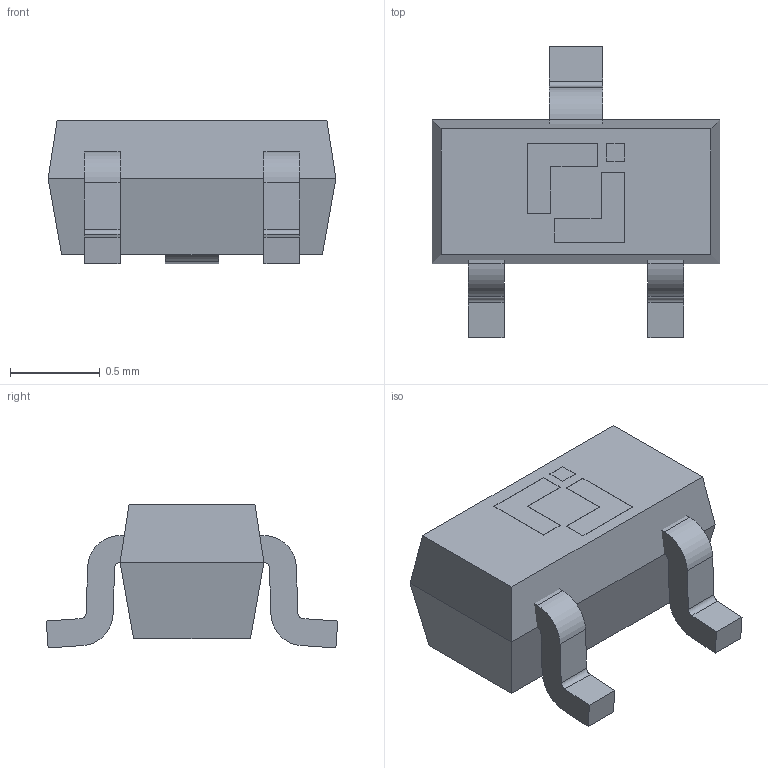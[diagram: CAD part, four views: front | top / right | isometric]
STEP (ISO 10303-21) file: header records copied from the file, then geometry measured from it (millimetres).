
FILE_DESCRIPTION(('HOOPS Exchange Step'),'2;1');
FILE_NAME('C:\Users\JSCJ\AppData\Local\Packages\Shapr3D.Shapr3D_dvv5p1vgwv6mp\TempState\export\temp_export','2025-12-04T11:07:41+08:00',('JSCJ'),('Shapr3D Limited'),'HOOPS Exchange 2025.7','Shapr3D','Authorized');
FILE_SCHEMA( ('AP242_MANAGED_MODEL_BASED_3D_ENGINEERING_MIM_LF {1 0 10303 442 1 1 4}') );
Length unit declared in the file: millimetre
Products named in the file (2): 直线图案 01; root
Assembly tree (1 placements, depth 2):
  root
    直线图案 01
Bounding box: 1.6 x 1.62 x 0.8 mm (x, y, z)
Volume: 0.9 mm3; surface area: 7.7 mm2
Topology: 4 solids, 4 shells, 71 faces, 176 edges, 116 vertices
Faces by surface type: plane 59, cylinder 12
Entity records: 2166 total; most frequent: CARTESIAN_POINT 367, ORIENTED_EDGE 352, DIRECTION 350, EDGE_CURVE 176, VECTOR 152, LINE 152, VERTEX_POINT 116, AXIS2_PLACEMENT_3D 99
